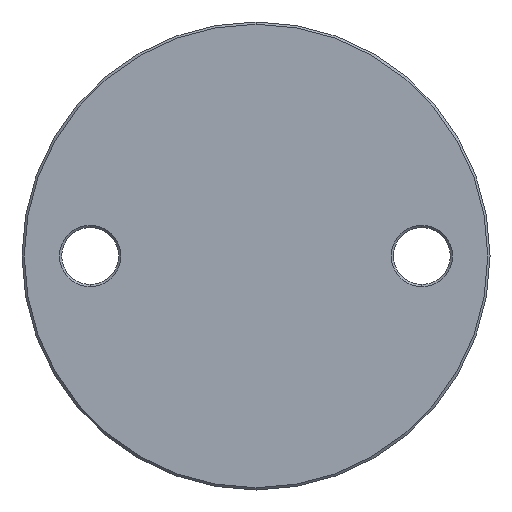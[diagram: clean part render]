
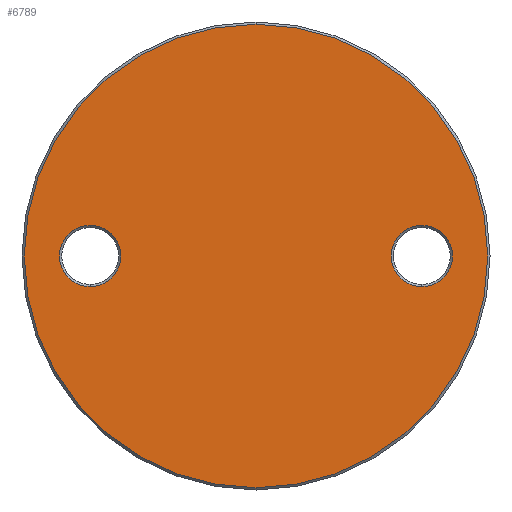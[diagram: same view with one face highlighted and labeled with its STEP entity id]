
A CAD part, front view. The second image highlights one B-rep face of the part: STEP entity #6789.
In plain terms, the highlighted planar face has unit normal (0, -1, 0).
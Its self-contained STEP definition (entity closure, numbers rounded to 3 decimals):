
#14 = EDGE_LOOP ( 'NONE', ( #9597, #4669 ) ) ;
#147 = CARTESIAN_POINT ( 'NONE',  ( 36.5, -3., 0. ) ) ;
#230 = ORIENTED_EDGE ( 'NONE', *, *, #8924, .T. ) ;
#790 = EDGE_LOOP ( 'NONE', ( #4135, #1521 ) ) ;
#824 = CARTESIAN_POINT ( 'NONE',  ( 36.5, -3., 0. ) ) ;
#1455 = CARTESIAN_POINT ( 'NONE',  ( 0., -3., 51.5 ) ) ;
#1521 = ORIENTED_EDGE ( 'NONE', *, *, #6019, .T. ) ;
#1711 = AXIS2_PLACEMENT_3D ( 'NONE', #147, #9617, #3251 ) ;
#1861 = AXIS2_PLACEMENT_3D ( 'NONE', #3247, #7208, #8749 ) ;
#1941 = CIRCLE ( 'NONE', #9512, 6.75 ) ;
#2113 = VERTEX_POINT ( 'NONE', #3650 ) ;
#2207 = CARTESIAN_POINT ( 'NONE',  ( 0., -3., -51. ) ) ;
#2340 = CIRCLE ( 'NONE', #2431, 51. ) ;
#2431 = AXIS2_PLACEMENT_3D ( 'NONE', #7940, #4046, #6489 ) ;
#2782 = CARTESIAN_POINT ( 'NONE',  ( 36.5, -3., -6.75 ) ) ;
#2943 = VERTEX_POINT ( 'NONE', #4382 ) ;
#3237 = DIRECTION ( 'NONE',  ( 0., 1., 0. ) ) ;
#3247 = CARTESIAN_POINT ( 'NONE',  ( -36.5, -3., 0. ) ) ;
#3251 = DIRECTION ( 'NONE',  ( 0., 0., -1. ) ) ;
#3650 = CARTESIAN_POINT ( 'NONE',  ( -36.5, -3., -6.75 ) ) ;
#3730 = DIRECTION ( 'NONE',  ( 0., -1., 0. ) ) ;
#3842 = AXIS2_PLACEMENT_3D ( 'NONE', #6408, #8683, #9582 ) ;
#4046 = DIRECTION ( 'NONE',  ( 0., -1., 0. ) ) ;
#4135 = ORIENTED_EDGE ( 'NONE', *, *, #8215, .T. ) ;
#4304 = AXIS2_PLACEMENT_3D ( 'NONE', #1455, #3730, #6909 ) ;
#4382 = CARTESIAN_POINT ( 'NONE',  ( -36.5, -3., 6.75 ) ) ;
#4616 = VERTEX_POINT ( 'NONE', #2782 ) ;
#4637 = VERTEX_POINT ( 'NONE', #5072 ) ;
#4669 = ORIENTED_EDGE ( 'NONE', *, *, #4685, .T. ) ;
#4685 = EDGE_CURVE ( 'NONE', #2943, #2113, #1941, .T. ) ;
#4853 = VERTEX_POINT ( 'NONE', #7908 ) ;
#4932 = VERTEX_POINT ( 'NONE', #2207 ) ;
#5072 = CARTESIAN_POINT ( 'NONE',  ( 0., -3., 51. ) ) ;
#5350 = PLANE ( 'NONE',  #4304 ) ;
#5444 = EDGE_LOOP ( 'NONE', ( #9642, #230 ) ) ;
#6019 = EDGE_CURVE ( 'NONE', #4853, #4616, #6154, .T. ) ;
#6043 = CARTESIAN_POINT ( 'NONE',  ( -36.5, -3., 0. ) ) ;
#6091 = CIRCLE ( 'NONE', #1861, 6.75 ) ;
#6154 = CIRCLE ( 'NONE', #1711, 6.75 ) ;
#6408 = CARTESIAN_POINT ( 'NONE',  ( 0., -3., 0. ) ) ;
#6489 = DIRECTION ( 'NONE',  ( 0., 0., -1. ) ) ;
#6789 = ADVANCED_FACE ( 'NONE', ( #9471, #9230, #7392 ), #5350, .T. ) ;
#6909 = DIRECTION ( 'NONE',  ( 0., 0., -1. ) ) ;
#7208 = DIRECTION ( 'NONE',  ( 0., 1., 0. ) ) ;
#7230 = DIRECTION ( 'NONE',  ( 0., 0., -1. ) ) ;
#7392 = FACE_OUTER_BOUND ( 'NONE', #5444, .T. ) ;
#7908 = CARTESIAN_POINT ( 'NONE',  ( 36.5, -3., 6.75 ) ) ;
#7940 = CARTESIAN_POINT ( 'NONE',  ( 0., -3., 0. ) ) ;
#8215 = EDGE_CURVE ( 'NONE', #4616, #4853, #8222, .T. ) ;
#8222 = CIRCLE ( 'NONE', #10086, 6.75 ) ;
#8397 = DIRECTION ( 'NONE',  ( 0., 1., 0. ) ) ;
#8683 = DIRECTION ( 'NONE',  ( 0., -1., 0. ) ) ;
#8749 = DIRECTION ( 'NONE',  ( 0., 0., -1. ) ) ;
#8875 = EDGE_CURVE ( 'NONE', #2113, #2943, #6091, .T. ) ;
#8924 = EDGE_CURVE ( 'NONE', #4932, #4637, #9671, .T. ) ;
#9230 = FACE_BOUND ( 'NONE', #14, .T. ) ;
#9452 = EDGE_CURVE ( 'NONE', #4637, #4932, #2340, .T. ) ;
#9471 = FACE_BOUND ( 'NONE', #790, .T. ) ;
#9512 = AXIS2_PLACEMENT_3D ( 'NONE', #6043, #8397, #10019 ) ;
#9582 = DIRECTION ( 'NONE',  ( 0., 0., -1. ) ) ;
#9597 = ORIENTED_EDGE ( 'NONE', *, *, #8875, .T. ) ;
#9617 = DIRECTION ( 'NONE',  ( 0., 1., 0. ) ) ;
#9642 = ORIENTED_EDGE ( 'NONE', *, *, #9452, .T. ) ;
#9671 = CIRCLE ( 'NONE', #3842, 51. ) ;
#10019 = DIRECTION ( 'NONE',  ( 0., 0., -1. ) ) ;
#10086 = AXIS2_PLACEMENT_3D ( 'NONE', #824, #3237, #7230 ) ;
